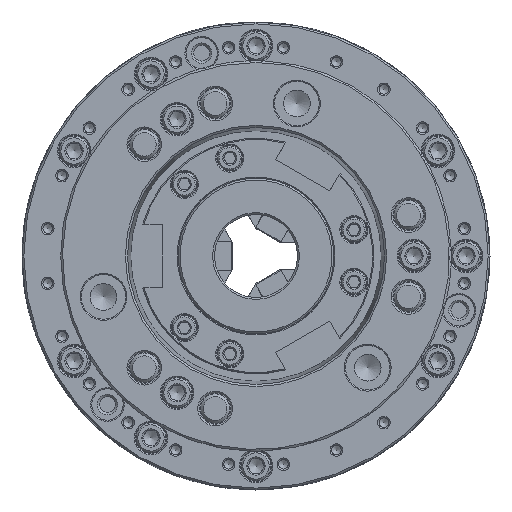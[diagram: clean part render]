
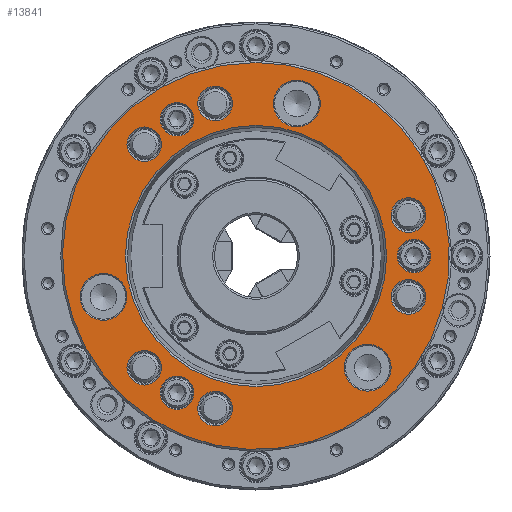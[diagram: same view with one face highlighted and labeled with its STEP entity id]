
A CAD part, left-side view. The second image highlights one B-rep face of the part: STEP entity #13841.
In plain terms, the highlighted planar face has unit normal (-1, 0, 0).
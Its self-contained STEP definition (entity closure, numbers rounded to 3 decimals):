
#524 = AXIS2_PLACEMENT_3D ( 'NONE', #34941, #101904, #34316 ) ;
#697 = CIRCLE ( 'NONE', #96346, 9.4 ) ;
#899 = CIRCLE ( 'NONE', #25333, 12.705 ) ;
#1219 = EDGE_LOOP ( 'NONE', ( #90793 ) ) ;
#2076 = DIRECTION ( 'NONE',  ( -1., 0., 0. ) ) ;
#3020 = ORIENTED_EDGE ( 'NONE', *, *, #83963, .T. ) ;
#3726 = FACE_BOUND ( 'NONE', #44855, .T. ) ;
#4328 = DIRECTION ( 'NONE',  ( 0., 0., 1. ) ) ;
#4996 = FACE_BOUND ( 'NONE', #92680, .T. ) ;
#6214 = DIRECTION ( 'NONE',  ( -1., 0., 0. ) ) ;
#6673 = EDGE_CURVE ( 'NONE', #17532, #17532, #78943, .T. ) ;
#6729 = ORIENTED_EDGE ( 'NONE', *, *, #61032, .F. ) ;
#7058 = VERTEX_POINT ( 'NONE', #84838 ) ;
#7106 = DIRECTION ( 'NONE',  ( 0., 0., 1. ) ) ;
#8059 = AXIS2_PLACEMENT_3D ( 'NONE', #115444, #26178, #18496 ) ;
#8408 = AXIS2_PLACEMENT_3D ( 'NONE', #84597, #6214, #66734 ) ;
#8766 = VERTEX_POINT ( 'NONE', #18938 ) ;
#9001 = CARTESIAN_POINT ( 'NONE',  ( -114., 42.863, 74.24 ) ) ;
#10469 = ORIENTED_EDGE ( 'NONE', *, *, #117971, .F. ) ;
#11449 = DIRECTION ( 'NONE',  ( 0., 0., 1. ) ) ;
#11466 = CARTESIAN_POINT ( 'NONE',  ( -114., 60.617, -60.617 ) ) ;
#13179 = CARTESIAN_POINT ( 'NONE',  ( -114., -82.804, -12.787 ) ) ;
#13841 = ADVANCED_FACE ( 'NONE', ( #3726, #25371, #103126, #24757, #92911, #41975, #92309, #90436, #111485, #44481, #42595, #73836, #54043, #4996 ), #51526, .F. ) ;
#15196 = AXIS2_PLACEMENT_3D ( 'NONE', #119204, #50953, #11449 ) ;
#16963 = CIRCLE ( 'NONE', #51575, 12.705 ) ;
#17238 = VERTEX_POINT ( 'NONE', #77184 ) ;
#17532 = VERTEX_POINT ( 'NONE', #48736 ) ;
#18154 = CARTESIAN_POINT ( 'NONE',  ( -114., -85.725, 0. ) ) ;
#18496 = DIRECTION ( 'NONE',  ( 0., 0., 1. ) ) ;
#18938 = CARTESIAN_POINT ( 'NONE',  ( -114., -82.804, 31.587 ) ) ;
#18998 = DIRECTION ( 'NONE',  ( -1., 0., 0. ) ) ;
#19210 = DIRECTION ( 'NONE',  ( 1., 0., 0. ) ) ;
#21198 = CIRCLE ( 'NONE', #37493, 9.1 ) ;
#22170 = CIRCLE ( 'NONE', #42462, 70.861 ) ;
#22632 = AXIS2_PLACEMENT_3D ( 'NONE', #118342, #68585, #67961 ) ;
#23453 = DIRECTION ( 'NONE',  ( -1., 0., 0. ) ) ;
#24757 = FACE_BOUND ( 'NONE', #88592, .T. ) ;
#24969 = VERTEX_POINT ( 'NONE', #81722 ) ;
#25333 = AXIS2_PLACEMENT_3D ( 'NONE', #106589, #19210, #96998 ) ;
#25371 = FACE_BOUND ( 'NONE', #102092, .T. ) ;
#25589 = CARTESIAN_POINT ( 'NONE',  ( -114., 82.804, -34.892 ) ) ;
#26178 = DIRECTION ( 'NONE',  ( -1., 0., 0. ) ) ;
#32053 = AXIS2_PLACEMENT_3D ( 'NONE', #18154, #115112, #125907 ) ;
#34316 = DIRECTION ( 'NONE',  ( 0., 0., -1. ) ) ;
#34525 = ORIENTED_EDGE ( 'NONE', *, *, #49842, .F. ) ;
#34941 = CARTESIAN_POINT ( 'NONE',  ( -114., 105., 0. ) ) ;
#37493 = AXIS2_PLACEMENT_3D ( 'NONE', #9001, #56177, #7106 ) ;
#39994 = CARTESIAN_POINT ( 'NONE',  ( -114., 60.617, 60.617 ) ) ;
#40073 = EDGE_CURVE ( 'NONE', #62611, #62611, #16963, .T. ) ;
#40639 = EDGE_CURVE ( 'NONE', #24969, #24969, #697, .T. ) ;
#41975 = FACE_BOUND ( 'NONE', #111389, .T. ) ;
#42287 = CARTESIAN_POINT ( 'NONE',  ( -114., -22.187, 70.099 ) ) ;
#42462 = AXIS2_PLACEMENT_3D ( 'NONE', #121360, #74156, #92021 ) ;
#42595 = FACE_BOUND ( 'NONE', #113966, .T. ) ;
#42720 = CIRCLE ( 'NONE', #85483, 12.705 ) ;
#44481 = FACE_BOUND ( 'NONE', #64794, .T. ) ;
#44855 = EDGE_LOOP ( 'NONE', ( #3020 ) ) ;
#45657 = CIRCLE ( 'NONE', #15196, 105. ) ;
#47321 = CARTESIAN_POINT ( 'NONE',  ( -114., -60.617, -60.617 ) ) ;
#48736 = CARTESIAN_POINT ( 'NONE',  ( -114., -85.725, 9.1 ) ) ;
#48934 = DIRECTION ( 'NONE',  ( 0., 0., -1. ) ) ;
#49842 = EDGE_CURVE ( 'NONE', #17238, #17238, #89867, .T. ) ;
#50953 = DIRECTION ( 'NONE',  ( -1., 0., 0. ) ) ;
#51372 = ORIENTED_EDGE ( 'NONE', *, *, #66339, .F. ) ;
#51526 = PLANE ( 'NONE',  #524 ) ;
#51575 = AXIS2_PLACEMENT_3D ( 'NONE', #102594, #54122, #48934 ) ;
#54043 = FACE_OUTER_BOUND ( 'NONE', #85939, .T. ) ;
#54122 = DIRECTION ( 'NONE',  ( 1., 0., 0. ) ) ;
#54281 = DIRECTION ( 'NONE',  ( 0., 0., 1. ) ) ;
#54383 = EDGE_LOOP ( 'NONE', ( #67876 ) ) ;
#56177 = DIRECTION ( 'NONE',  ( -1., 0., 0. ) ) ;
#56703 = EDGE_CURVE ( 'NONE', #7058, #7058, #22170, .T. ) ;
#57716 = CARTESIAN_POINT ( 'NONE',  ( -114., 0., 105. ) ) ;
#58801 = EDGE_CURVE ( 'NONE', #68868, #68868, #42720, .T. ) ;
#60498 = ORIENTED_EDGE ( 'NONE', *, *, #114116, .F. ) ;
#60517 = EDGE_CURVE ( 'NONE', #69499, #69499, #122312, .T. ) ;
#60557 = VERTEX_POINT ( 'NONE', #98814 ) ;
#60565 = DIRECTION ( 'NONE',  ( -1., 0., 0. ) ) ;
#61032 = EDGE_CURVE ( 'NONE', #60557, #60557, #108185, .T. ) ;
#62097 = CIRCLE ( 'NONE', #94588, 9.4 ) ;
#62611 = VERTEX_POINT ( 'NONE', #25589 ) ;
#63524 = EDGE_LOOP ( 'NONE', ( #94748 ) ) ;
#64150 = ORIENTED_EDGE ( 'NONE', *, *, #78343, .T. ) ;
#64339 = VERTEX_POINT ( 'NONE', #103207 ) ;
#64794 = EDGE_LOOP ( 'NONE', ( #60498 ) ) ;
#65228 = DIRECTION ( 'NONE',  ( 1., 0., 0. ) ) ;
#66339 = EDGE_CURVE ( 'NONE', #64339, #64339, #62097, .T. ) ;
#66734 = DIRECTION ( 'NONE',  ( 0., 0., 1. ) ) ;
#67876 = ORIENTED_EDGE ( 'NONE', *, *, #56703, .F. ) ;
#67961 = DIRECTION ( 'NONE',  ( 0., 0., 1. ) ) ;
#68585 = DIRECTION ( 'NONE',  ( -1., 0., 0. ) ) ;
#68868 = VERTEX_POINT ( 'NONE', #117977 ) ;
#69499 = VERTEX_POINT ( 'NONE', #108417 ) ;
#73469 = EDGE_LOOP ( 'NONE', ( #34525 ) ) ;
#73836 = FACE_BOUND ( 'NONE', #54383, .T. ) ;
#74156 = DIRECTION ( 'NONE',  ( -1., 0., 0. ) ) ;
#75867 = VERTEX_POINT ( 'NONE', #42287 ) ;
#76351 = CARTESIAN_POINT ( 'NONE',  ( -114., 42.863, 83.34 ) ) ;
#77184 = CARTESIAN_POINT ( 'NONE',  ( -114., 22.187, -73.404 ) ) ;
#77794 = EDGE_LOOP ( 'NONE', ( #6729 ) ) ;
#77802 = ORIENTED_EDGE ( 'NONE', *, *, #40639, .F. ) ;
#78343 = EDGE_CURVE ( 'NONE', #97240, #97240, #45657, .T. ) ;
#78943 = CIRCLE ( 'NONE', #32053, 9.1 ) ;
#79315 = CIRCLE ( 'NONE', #8059, 9.4 ) ;
#81722 = CARTESIAN_POINT ( 'NONE',  ( -114., 22.187, 92.204 ) ) ;
#82353 = ORIENTED_EDGE ( 'NONE', *, *, #6673, .F. ) ;
#82721 = CARTESIAN_POINT ( 'NONE',  ( -114., -82.804, -22.187 ) ) ;
#83217 = ORIENTED_EDGE ( 'NONE', *, *, #58801, .T. ) ;
#83963 = EDGE_CURVE ( 'NONE', #75867, #75867, #899, .T. ) ;
#84597 = CARTESIAN_POINT ( 'NONE',  ( -114., 22.187, -82.804 ) ) ;
#84838 = CARTESIAN_POINT ( 'NONE',  ( -114., 0., 70.861 ) ) ;
#85483 = AXIS2_PLACEMENT_3D ( 'NONE', #47321, #65228, #104738 ) ;
#85939 = EDGE_LOOP ( 'NONE', ( #64150 ) ) ;
#87314 = EDGE_LOOP ( 'NONE', ( #10469 ) ) ;
#88592 = EDGE_LOOP ( 'NONE', ( #108302 ) ) ;
#89410 = CARTESIAN_POINT ( 'NONE',  ( -114., 22.187, 82.804 ) ) ;
#89867 = CIRCLE ( 'NONE', #8408, 9.4 ) ;
#90436 = FACE_BOUND ( 'NONE', #87314, .T. ) ;
#90793 = ORIENTED_EDGE ( 'NONE', *, *, #40073, .T. ) ;
#92021 = DIRECTION ( 'NONE',  ( 0., 0., 1. ) ) ;
#92309 = FACE_BOUND ( 'NONE', #77794, .T. ) ;
#92680 = EDGE_LOOP ( 'NONE', ( #51372 ) ) ;
#92911 = FACE_BOUND ( 'NONE', #73469, .T. ) ;
#94588 = AXIS2_PLACEMENT_3D ( 'NONE', #39994, #18998, #98040 ) ;
#94748 = ORIENTED_EDGE ( 'NONE', *, *, #123527, .F. ) ;
#95249 = CIRCLE ( 'NONE', #107509, 9.4 ) ;
#95847 = AXIS2_PLACEMENT_3D ( 'NONE', #11466, #60565, #98819 ) ;
#96346 = AXIS2_PLACEMENT_3D ( 'NONE', #89410, #2076, #54281 ) ;
#96998 = DIRECTION ( 'NONE',  ( 0., 0., -1. ) ) ;
#97240 = VERTEX_POINT ( 'NONE', #57716 ) ;
#97978 = VERTEX_POINT ( 'NONE', #76351 ) ;
#98040 = DIRECTION ( 'NONE',  ( 0., 0., 1. ) ) ;
#98814 = CARTESIAN_POINT ( 'NONE',  ( -114., 42.862, -65.14 ) ) ;
#98819 = DIRECTION ( 'NONE',  ( 0., 0., 1. ) ) ;
#100522 = VERTEX_POINT ( 'NONE', #13179 ) ;
#101904 = DIRECTION ( 'NONE',  ( 1., 0., 0. ) ) ;
#102092 = EDGE_LOOP ( 'NONE', ( #83217 ) ) ;
#102594 = CARTESIAN_POINT ( 'NONE',  ( -114., 82.804, -22.187 ) ) ;
#103126 = FACE_BOUND ( 'NONE', #1219, .T. ) ;
#103207 = CARTESIAN_POINT ( 'NONE',  ( -114., 60.617, 70.017 ) ) ;
#104738 = DIRECTION ( 'NONE',  ( 0., 0., -1. ) ) ;
#106589 = CARTESIAN_POINT ( 'NONE',  ( -114., -22.187, 82.804 ) ) ;
#107509 = AXIS2_PLACEMENT_3D ( 'NONE', #82721, #23453, #4328 ) ;
#108185 = CIRCLE ( 'NONE', #22632, 9.1 ) ;
#108302 = ORIENTED_EDGE ( 'NONE', *, *, #60517, .F. ) ;
#108417 = CARTESIAN_POINT ( 'NONE',  ( -114., 60.617, -51.217 ) ) ;
#111389 = EDGE_LOOP ( 'NONE', ( #77802 ) ) ;
#111485 = FACE_BOUND ( 'NONE', #63524, .T. ) ;
#113966 = EDGE_LOOP ( 'NONE', ( #82353 ) ) ;
#114116 = EDGE_CURVE ( 'NONE', #8766, #8766, #79315, .T. ) ;
#115112 = DIRECTION ( 'NONE',  ( -1., 0., 0. ) ) ;
#115444 = CARTESIAN_POINT ( 'NONE',  ( -114., -82.804, 22.187 ) ) ;
#117971 = EDGE_CURVE ( 'NONE', #97978, #97978, #21198, .T. ) ;
#117977 = CARTESIAN_POINT ( 'NONE',  ( -114., -60.617, -73.322 ) ) ;
#118342 = CARTESIAN_POINT ( 'NONE',  ( -114., 42.862, -74.24 ) ) ;
#119204 = CARTESIAN_POINT ( 'NONE',  ( -114., 0., 0. ) ) ;
#121360 = CARTESIAN_POINT ( 'NONE',  ( -114., 0., 0. ) ) ;
#122312 = CIRCLE ( 'NONE', #95847, 9.4 ) ;
#123527 = EDGE_CURVE ( 'NONE', #100522, #100522, #95249, .T. ) ;
#125907 = DIRECTION ( 'NONE',  ( 0., 0., 1. ) ) ;
